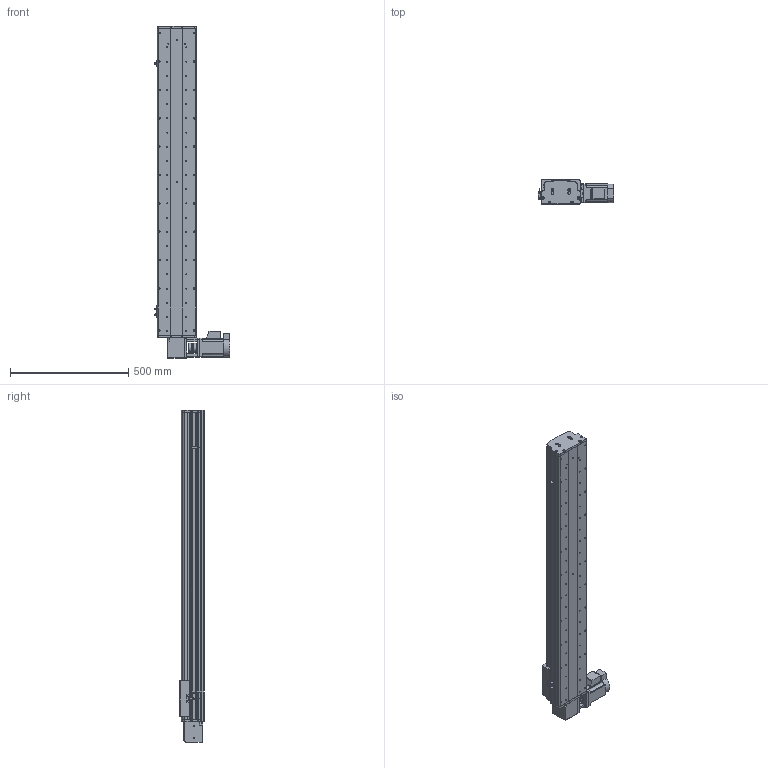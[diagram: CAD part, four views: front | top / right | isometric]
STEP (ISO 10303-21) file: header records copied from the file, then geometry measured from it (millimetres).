
FILE_DESCRIPTION (( 'STEP AP214' ), '1' );
FILE_NAME ('KSD165B-S1050-MRT-CM.STEP', '2017-08-14T06:00:43', ( '微软用户' ), ( '微软中国' ), 'SwSTEP 2.0', 'SolidWorks 2014', '' );
FILE_SCHEMA (( 'AUTOMOTIVE_DESIGN' ));
Length unit declared in the file: millimetre
Products named in the file (16): KSD165模组-同步带防尘盖1-1050行程; KSD165模组同步带底板-1050行程; 拸秶雄ん750W侜督萇儂; 165宽安装板同步带带电机座750W; 165宽马达安装板同步带右; C39ㄜ1419WP; U倰嫖萇假蚾璃; U倰嫖萇EEㄜSX672; 覜茼え68遵圉猾敕; KSD165模组-同步带-防撞垫2; KSD165模组同步带-防撞垫1; KSD165耀郪-ヶ傷啣1-肮祭湍; KSD165模组-后端板1-同步带; 130宽马达安装板1-带电机座750W（1）; KSD165模组-同步带滑动座-最新版; KSD165B-S1050-MRT-CM
Assembly tree (19 placements, depth 2):
  KSD165B-S1050-MRT-CM
    KSD165模组-同步带滑动座-最新版
    130宽马达安装板1-带电机座750W（1）
    KSD165模组-后端板1-同步带
    KSD165耀郪-ヶ傷啣1-肮祭湍
    KSD165模组同步带-防撞垫1
    KSD165模组-同步带-防撞垫2
    覜茼え68遵圉猾敕
    U倰嫖萇EEㄜSX672  x3
    U倰嫖萇假蚾璃  x3
    C39ㄜ1419WP
    165宽马达安装板同步带右
    165宽安装板同步带带电机座750W
    拸秶雄ん750W侜督萇儂
    KSD165模组同步带底板-1050行程
    KSD165模组-同步带防尘盖1-1050行程
Bounding box: 321.2 x 104 x 1404 mm (x, y, z)
Volume: 8113413.9 mm3; surface area: 1833172.5 mm2
Topology: 20 solids, 20 shells, 1518 faces, 4230 edges, 2741 vertices
Faces by surface type: cylinder 843, plane 581, cone 94
Entity records: 48615 total; most frequent: CARTESIAN_POINT 10169, DIRECTION 7544, ORIENTED_EDGE 7112, EDGE_CURVE 3556, AXIS2_PLACEMENT_3D 2876, VERTEX_POINT 2333, LINE 1792, VECTOR 1792
